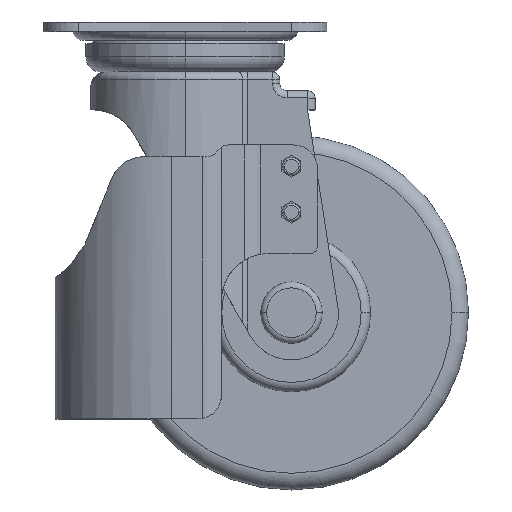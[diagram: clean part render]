
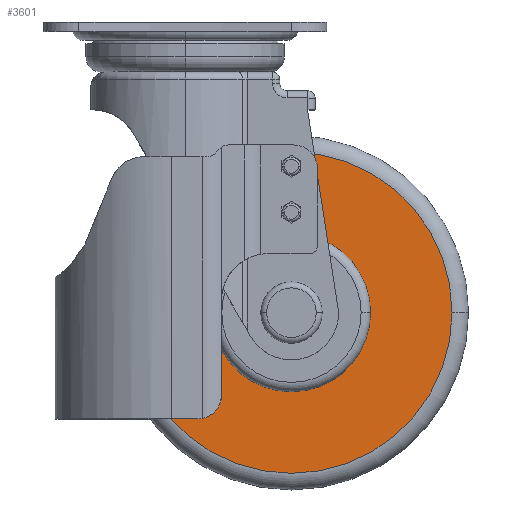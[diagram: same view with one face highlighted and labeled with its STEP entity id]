
A CAD part, top view. The second image highlights one B-rep face of the part: STEP entity #3601.
In plain terms, the highlighted planar face has unit normal (0, 0, 1).
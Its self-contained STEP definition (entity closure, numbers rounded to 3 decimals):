
#195 = VERTEX_POINT ( 'NONE', #3902 ) ;
#372 = FACE_BOUND ( 'NONE', #3600, .T. ) ;
#557 = CIRCLE ( 'NONE', #7200, 33.5 ) ;
#826 = EDGE_LOOP ( 'NONE', ( #3620, #6324 ) ) ;
#1236 = CIRCLE ( 'NONE', #7167, 68. ) ;
#1395 = ORIENTED_EDGE ( 'NONE', *, *, #6819, .F. ) ;
#1634 = ORIENTED_EDGE ( 'NONE', *, *, #3885, .F. ) ;
#1753 = CARTESIAN_POINT ( 'NONE',  ( 68., 0., 22. ) ) ;
#2284 = DIRECTION ( 'NONE',  ( 1., 0., 0. ) ) ;
#2297 = DIRECTION ( 'NONE',  ( 0., 0., 1. ) ) ;
#2320 = CARTESIAN_POINT ( 'NONE',  ( 0., 0., 22. ) ) ;
#2328 = VERTEX_POINT ( 'NONE', #2807 ) ;
#2394 = CARTESIAN_POINT ( 'NONE',  ( 0., 0., 22. ) ) ;
#2560 = EDGE_CURVE ( 'NONE', #7884, #195, #8220, .T. ) ;
#2807 = CARTESIAN_POINT ( 'NONE',  ( -33.5, 0., 22. ) ) ;
#3534 = DIRECTION ( 'NONE',  ( 1., 0., 0. ) ) ;
#3547 = DIRECTION ( 'NONE',  ( 0., 0., 1. ) ) ;
#3600 = EDGE_LOOP ( 'NONE', ( #1634, #1395 ) ) ;
#3601 = ADVANCED_FACE ( 'NONE', ( #6862, #372 ), #5727, .T. ) ;
#3620 = ORIENTED_EDGE ( 'NONE', *, *, #2560, .T. ) ;
#3885 = EDGE_CURVE ( 'NONE', #7566, #2328, #557, .T. ) ;
#3902 = CARTESIAN_POINT ( 'NONE',  ( -68., 0., 22. ) ) ;
#3967 = DIRECTION ( 'NONE',  ( 1., 0., 0. ) ) ;
#3977 = DIRECTION ( 'NONE',  ( 0., 0., 1. ) ) ;
#3979 = CARTESIAN_POINT ( 'NONE',  ( 0., 0., 22. ) ) ;
#4366 = AXIS2_PLACEMENT_3D ( 'NONE', #5782, #5803, #5706 ) ;
#5706 = DIRECTION ( 'NONE',  ( 1., 0., 0. ) ) ;
#5727 = PLANE ( 'NONE',  #4366 ) ;
#5782 = CARTESIAN_POINT ( 'NONE',  ( 33.5, 0., 22. ) ) ;
#5803 = DIRECTION ( 'NONE',  ( 0., 0., 1. ) ) ;
#6135 = CARTESIAN_POINT ( 'NONE',  ( 33.5, 0., 22. ) ) ;
#6284 = AXIS2_PLACEMENT_3D ( 'NONE', #2320, #2297, #2284 ) ;
#6324 = ORIENTED_EDGE ( 'NONE', *, *, #6659, .T. ) ;
#6659 = EDGE_CURVE ( 'NONE', #195, #7884, #1236, .T. ) ;
#6681 = DIRECTION ( 'NONE',  ( 0., 0., 1. ) ) ;
#6683 = CARTESIAN_POINT ( 'NONE',  ( 0., 0., 22. ) ) ;
#6706 = DIRECTION ( 'NONE',  ( 1., 0., 0. ) ) ;
#6819 = EDGE_CURVE ( 'NONE', #2328, #7566, #7330, .T. ) ;
#6862 = FACE_OUTER_BOUND ( 'NONE', #826, .T. ) ;
#7167 = AXIS2_PLACEMENT_3D ( 'NONE', #2394, #3547, #3534 ) ;
#7198 = AXIS2_PLACEMENT_3D ( 'NONE', #6683, #6681, #6706 ) ;
#7200 = AXIS2_PLACEMENT_3D ( 'NONE', #3979, #3977, #3967 ) ;
#7330 = CIRCLE ( 'NONE', #6284, 33.5 ) ;
#7566 = VERTEX_POINT ( 'NONE', #6135 ) ;
#7884 = VERTEX_POINT ( 'NONE', #1753 ) ;
#8220 = CIRCLE ( 'NONE', #7198, 68. ) ;
